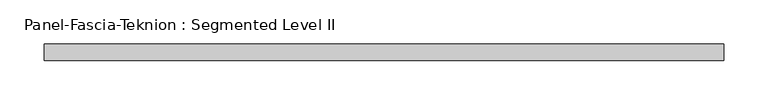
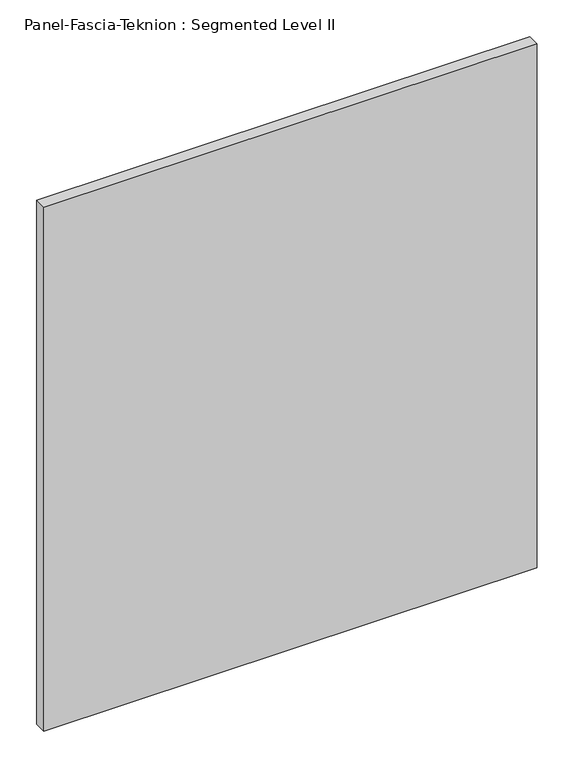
"""IFC4 building model written with IfcOpenShell, lengths in millimetres: proxy geometry, Panel-Fascia-Teknion : Segmented Level II."""

import ifcopenshell
import ifcopenshell.guid

model = None  # the IFC model being written
_history = None  # IfcOwnerHistory: only IFC2X3 demands one
_inside = {}  # id of a spatial element -> (the spatial element, [elements in it])
_under = {}  # id of a project, library or spatial element -> (it, [spatial elements below it])
_declared = {}  # id of a project -> (the project, [libraries it declares])
_typed = {}  # id of a type object -> (the type object, [elements of that type])
_made_of = {}  # id of a material, layer set ... -> (it, [elements and type objects made of it])


def new_model(schema):
    """Start an empty IFC model of exactly this schema.

    Asked for "IFC4X3", IfcOpenShell would pick the latest addendum, in which some entities
    have other attributes; the version numbers below select the first issue.
    IFC2X3 requires an IfcOwnerHistory on every rooted entity: one is made here for all.
    """
    global model, _history
    if schema == "IFC4X3":
        model = ifcopenshell.file(schema_version=(4, 3, 0, 0))
    else:
        model = ifcopenshell.file(schema=schema)
    _inside.clear()
    _under.clear()
    _declared.clear()
    _typed.clear()
    _made_of.clear()
    _history = None
    if model.schema == "IFC2X3":
        org = make("IfcOrganization", Name="unknown")
        user = make(
            "IfcPersonAndOrganization",
            ThePerson=make("IfcPerson", FamilyName="unknown"),
            TheOrganization=org,
        )
        app = make(
            "IfcApplication",
            ApplicationDeveloper=org,
            Version="unknown",
            ApplicationFullName="unknown",
            ApplicationIdentifier="unknown",
        )
        _history = make(
            "IfcOwnerHistory",
            OwningUser=user,
            OwningApplication=app,
            ChangeAction="ADDED",
            CreationDate=0,
        )
    return model


def make(cls, **values):
    """One entity of the class cls with the attributes given. An attribute that is None is left unset."""
    return model.create_entity(
        cls, **{name: value for name, value in values.items() if value is not None}
    )


def rooted(cls, **values):
    """An entity with a GlobalId (a new one), such as an element, a storey or a relation."""
    return make(cls, GlobalId=ifcopenshell.guid.new(), OwnerHistory=_history, **values)


def si_unit(unit_type, name, prefix=None):
    """IfcSIUnit, for example si_unit("LENGTHUNIT", "METRE", prefix="MILLI")."""
    return make("IfcSIUnit", UnitType=unit_type, Prefix=prefix, Name=name)


def assignment(units):
    """IfcUnitAssignment: the units of a project."""
    return None if units is None else make("IfcUnitAssignment", Units=units)


def point(xyz):
    """IfcCartesianPoint."""
    return None if xyz is None else make("IfcCartesianPoint", Coordinates=xyz)


def direction(xyz):
    """IfcDirection."""
    return None if xyz is None else make("IfcDirection", DirectionRatios=xyz)


def frame(location, z_axis=None, x_axis=None):
    """IfcAxis2Placement3D, a coordinate frame: its origin and axes. An axis left out is left unset."""
    return make(
        "IfcAxis2Placement3D",
        Location=point(location),
        Axis=direction(z_axis),
        RefDirection=direction(x_axis),
    )


def origin():
    """The frame at (0, 0, 0) with its axes left unset."""
    return frame((0.0, 0.0, 0.0))


def place(relative_to, where):
    """IfcLocalPlacement: puts the frame where relative to a parent placement (None: the world)."""
    return make(
        "IfcLocalPlacement", PlacementRelTo=relative_to, RelativePlacement=where
    )


def context(
    kind, dimensions, precision=None, world=None, true_north=None, identifier=None
):
    """IfcGeometricRepresentationContext, for example the 3D "Model" context."""
    return make(
        "IfcGeometricRepresentationContext",
        ContextIdentifier=identifier,
        ContextType=kind,
        CoordinateSpaceDimension=dimensions,
        Precision=precision,
        WorldCoordinateSystem=world,
        TrueNorth=true_north,
    )


def project(units=None, contexts=None):
    """IfcProject with its units and contexts."""
    return rooted(
        "IfcProject",
        Name="project",
        RepresentationContexts=contexts,
        UnitsInContext=assignment(units),
    )


def spatial(cls, under=None, at=None, **own):
    """A site, building, storey or space (cls), placed at a placement, below another one or the project."""
    s = rooted(cls, ObjectPlacement=at, **own)
    if under is not None:
        _under.setdefault(under.id(), (under, []))[1].append(s)
    return s


def polyline(points):
    """IfcPolyline through the points."""
    return make("IfcPolyline", Points=[point(p) for p in points])


def outline(outer, holes=None, kind="AREA"):
    """IfcArbitraryClosedProfileDef: a profile drawn as a closed curve; with holes, ...WithVoids."""
    if holes is None:
        return make("IfcArbitraryClosedProfileDef", ProfileType=kind, OuterCurve=outer)
    return make(
        "IfcArbitraryProfileDefWithVoids",
        ProfileType=kind,
        OuterCurve=outer,
        InnerCurves=holes,
    )


def extrude(swept, where, along, depth):
    """IfcExtrudedAreaSolid: the profile swept, set in the frame where, extruded along a direction by depth."""
    return make(
        "IfcExtrudedAreaSolid",
        SweptArea=swept,
        Position=where,
        ExtrudedDirection=direction(along),
        Depth=depth,
    )


def shape(context_of_items, identifier, shape_type, items):
    """IfcShapeRepresentation: the items that make up one representation, for example the "Body"."""
    return make(
        "IfcShapeRepresentation",
        ContextOfItems=context_of_items,
        RepresentationIdentifier=identifier,
        RepresentationType=shape_type,
        Items=items,
    )


def source(mapping_origin, context_of_items, identifier, shape_type, items):
    """IfcRepresentationMap: a shape defined once, which mapped items show again and again."""
    return make(
        "IfcRepresentationMap",
        MappingOrigin=mapping_origin,
        MappedRepresentation=shape(context_of_items, identifier, shape_type, items),
    )


def transform(
    local_origin,
    x_axis=None,
    y_axis=None,
    z_axis=None,
    scale=None,
    scale2=None,
    scale3=None,
    uniform=True,
):
    """IfcCartesianTransformationOperator3D, or its non-uniform kind. x_axis, y_axis, z_axis: its Axis1, 2, 3."""
    if uniform:
        return make(
            "IfcCartesianTransformationOperator3D",
            Axis1=direction(x_axis),
            Axis2=direction(y_axis),
            LocalOrigin=point(local_origin),
            Scale=scale,
            Axis3=direction(z_axis),
        )
    return make(
        "IfcCartesianTransformationOperator3DnonUniform",
        Axis1=direction(x_axis),
        Axis2=direction(y_axis),
        LocalOrigin=point(local_origin),
        Scale=scale,
        Axis3=direction(z_axis),
        Scale2=scale2,
        Scale3=scale3,
    )


def mapped(mapping_source, mapping_target):
    """IfcMappedItem: shows the shape of a source again, moved by a transform."""
    return make(
        "IfcMappedItem", MappingSource=mapping_source, MappingTarget=mapping_target
    )


def made_of(thing, what):
    """Note that an element or type object is made of a material, layer set ...; save() writes the relation."""
    if what is not None:
        _made_of.setdefault(what.id(), (what, []))[1].append(thing)
    return thing


def element(
    cls,
    number,
    at=None,
    inside=None,
    cuts=None,
    type_object=None,
    material=None,
    context=None,
    identifier="Body",
    shape_type=None,
    held_by="IfcProductDefinitionShape",
    body=None,
    shapes=None,
    **own,
):
    """One element of the class cls, such as IfcWall. Its Tag is "e" and its number.

    at: its placement. inside: the storey or other place that contains it. cuts: it is an
    opening in that element (IfcRelVoidsElement). A single representation is given by context,
    identifier, shape_type and body (its items); several are given by shapes. held_by: the class
    of the entity that holds the representations. save() writes the other relations.
    """
    e = rooted(cls, Tag="e%d" % number, ObjectPlacement=at, **own)
    if body is not None:
        shapes = [shape(context, identifier, shape_type, body)]
    if shapes is not None:
        e.Representation = make(held_by, Representations=shapes)
    if inside is not None:
        _inside.setdefault(inside.id(), (inside, []))[1].append(e)
    if cuts is not None:
        rooted(
            "IfcRelVoidsElement", RelatingBuildingElement=cuts, RelatedOpeningElement=e
        )
    if type_object is not None:
        _typed.setdefault(type_object.id(), (type_object, []))[1].append(e)
    return made_of(e, material)


def aggregate(whole, parts):
    """IfcRelAggregates: a whole, such as a stair, and the parts it consists of."""
    return rooted("IfcRelAggregates", RelatingObject=whole, RelatedObjects=parts)


def save(model, path):
    """Write the relations noted so far, then the file.

    IfcRelAggregates (storeys below a building ...), IfcRelContainedInSpatialStructure (elements
    in a storey), IfcRelDefinesByType, IfcRelAssociatesMaterial and IfcRelDeclares: one each for
    every whole, place, type object, material and project.
    """
    for whole, parts in _under.values():
        aggregate(whole, parts)
    for where, things in _inside.values():
        rooted(
            "IfcRelContainedInSpatialStructure",
            RelatedElements=things,
            RelatingStructure=where,
        )
    for kind, things in _typed.values():
        rooted("IfcRelDefinesByType", RelatedObjects=things, RelatingType=kind)
    for what, things in _made_of.values():
        rooted("IfcRelAssociatesMaterial", RelatedObjects=things, RelatingMaterial=what)
    for by, libraries in _declared.values():
        rooted("IfcRelDeclares", RelatingContext=by, RelatedDefinitions=libraries)
    model.write(path)


def panel_fascia_teknion_segmented_level_ii_f3f521e5(model_context):
    return source(origin(), model_context, "Body", "SweptSolid", [
        extrude(outline(polyline([(385.4152344, 9.525), (385.4152344, -9.525), (-385.4152344, -9.525), (-385.4152344, 9.525), (385.4152344, 9.525)])), frame((0.0, 0.0, 3.175), z_axis=(0.0, 0.0, 1.0), x_axis=(1.0, 0.0, 0.0)), (0.0, 0.0, 1.0), 865.632),
    ])


if __name__ == "__main__":
    model = new_model("IFC4")
    model_context = context("Model", 3, world=origin())
    ifc_project = project(units=[si_unit("LENGTHUNIT", "METRE", prefix="MILLI")], contexts=[model_context])
    site = spatial("IfcSite", under=ifc_project)
    building = spatial("IfcBuilding", under=site)
    placement = place(None, origin())
    panel_fascia_teknion_segmented_level_ii_shape = panel_fascia_teknion_segmented_level_ii_f3f521e5(model_context)
    element("IfcBuildingElementProxy", 1, Name="Panel-Fascia-Teknion : Segmented Level II", ObjectType="Panel-Fascia-Teknion : Segmented Level II", at=placement, inside=building, context=model_context, shape_type="MappedRepresentation", body=[
        mapped(panel_fascia_teknion_segmented_level_ii_shape, transform((0.0, 0.0, 0.0), x_axis=(1.0, 0.0, 0.0), y_axis=(0.0, 1.0, 0.0), z_axis=(0.0, 0.0, 1.0))),
    ])
    save(model, "model.ifc")
